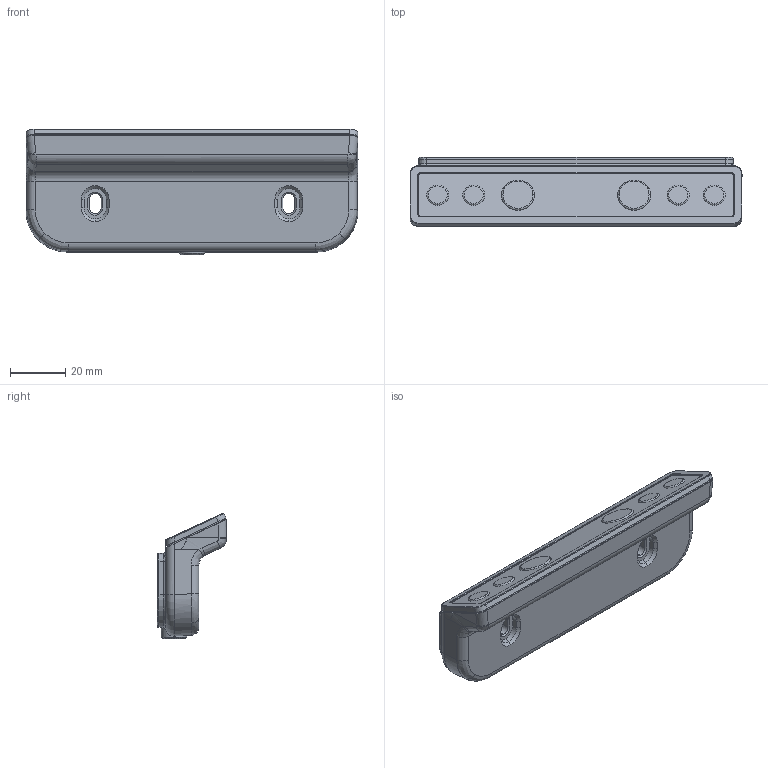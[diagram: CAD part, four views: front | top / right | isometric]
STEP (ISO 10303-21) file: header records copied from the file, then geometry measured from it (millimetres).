
FILE_DESCRIPTION (( 'STEP AP203' ), '1' );
FILE_NAME ('3D_TDH8P-A.STEP', '2018-02-13T10:47:33', ( '' ), ( '' ), 'SwSTEP 2.0', 'SolidWorks 2015', '' );
FILE_SCHEMA (( 'CONFIG_CONTROL_DESIGN' ));
Length unit declared in the file: millimetre
Products named in the file (1): 3D_TDH8P-A
Bounding box: 120 x 25 x 45.44 mm (x, y, z)
Volume: 72938.3 mm3; surface area: 32092.3 mm2
Topology: 13 solids, 13 shells, 379 faces, 908 edges, 564 vertices
Faces by surface type: plane 135, cylinder 116, cone 64, torus 34, bspline 22, sphere 8
Entity records: 11745 total; most frequent: CARTESIAN_POINT 2907, DIRECTION 1886, ORIENTED_EDGE 1816, EDGE_CURVE 908, AXIS2_PLACEMENT_3D 752, VERTEX_POINT 564, EDGE_LOOP 406, CIRCLE 394
